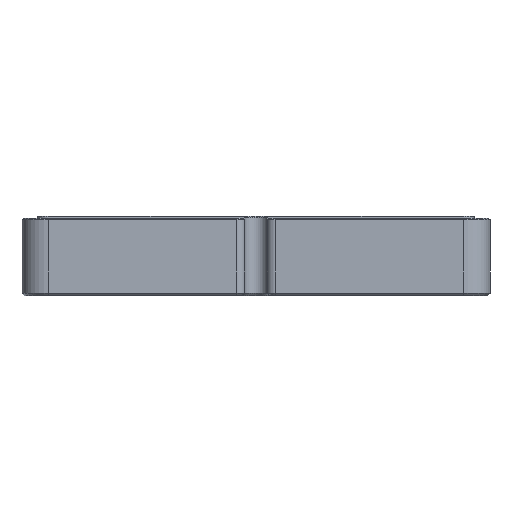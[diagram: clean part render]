
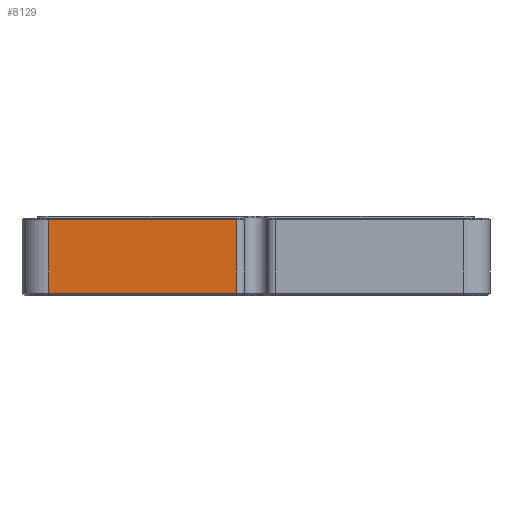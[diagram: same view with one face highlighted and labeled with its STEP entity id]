
A CAD part, front view. The second image highlights one B-rep face of the part: STEP entity #8129.
In plain terms, the highlighted planar face has unit normal (0, -1, 0).
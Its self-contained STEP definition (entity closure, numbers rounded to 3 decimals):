
#735=PLANE('',#8707);
#1164=FACE_OUTER_BOUND('',#1666,.T.);
#1666=EDGE_LOOP('',(#7164,#7165,#7166,#7167));
#2206=LINE('',#55495,#2794);
#2217=LINE('',#55524,#2805);
#2219=LINE('',#55528,#2807);
#2220=LINE('',#55529,#2808);
#2794=VECTOR('',#10192,10.);
#2805=VECTOR('',#10219,10.);
#2807=VECTOR('',#10223,10.);
#2808=VECTOR('',#10224,10.);
#3889=VERTEX_POINT('',#55459);
#3900=VERTEX_POINT('',#55488);
#3911=VERTEX_POINT('',#55523);
#3912=VERTEX_POINT('',#55527);
#5008=EDGE_CURVE('',#3900,#3889,#2206,.T.);
#5022=EDGE_CURVE('',#3911,#3889,#2217,.T.);
#5024=EDGE_CURVE('',#3900,#3912,#2219,.T.);
#5025=EDGE_CURVE('',#3911,#3912,#2220,.T.);
#7164=ORIENTED_EDGE('',*,*,#5008,.F.);
#7165=ORIENTED_EDGE('',*,*,#5024,.T.);
#7166=ORIENTED_EDGE('',*,*,#5025,.F.);
#7167=ORIENTED_EDGE('',*,*,#5022,.T.);
#8129=ADVANCED_FACE('',(#1164),#735,.T.);
#8707=AXIS2_PLACEMENT_3D('',#55526,#10221,#10222);
#10192=DIRECTION('',(1.,0.,0.));
#10219=DIRECTION('',(0.,0.,1.));
#10221=DIRECTION('center_axis',(0.,-1.,0.));
#10222=DIRECTION('ref_axis',(-1.,0.,0.));
#10223=DIRECTION('',(0.,0.,-1.));
#10224=DIRECTION('',(-1.,0.,0.));
#55459=CARTESIAN_POINT('',(-7.249,-62.,-1.25));
#55488=CARTESIAN_POINT('',(-78.,-62.,-1.25));
#55495=CARTESIAN_POINT('',(44.,-62.,-1.25));
#55523=CARTESIAN_POINT('',(-7.249,-62.,-29.));
#55524=CARTESIAN_POINT('',(-7.249,-62.,0.));
#55526=CARTESIAN_POINT('Origin',(88.,-62.,0.));
#55527=CARTESIAN_POINT('',(-78.,-62.,-29.));
#55528=CARTESIAN_POINT('',(-78.,-62.,0.));
#55529=CARTESIAN_POINT('',(44.,-62.,-29.));
